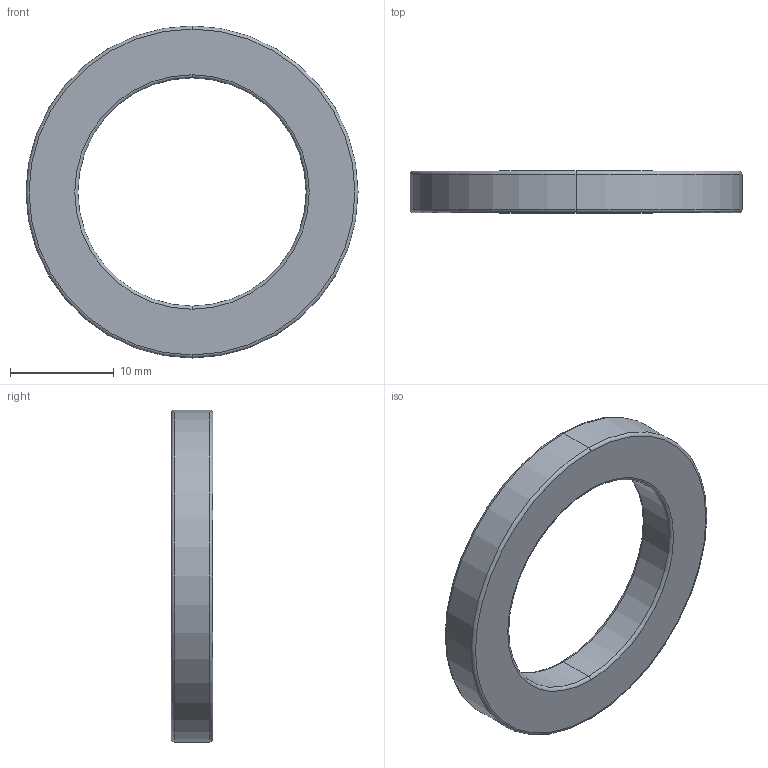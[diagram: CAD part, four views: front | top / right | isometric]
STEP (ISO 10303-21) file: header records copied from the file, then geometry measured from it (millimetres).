
FILE_DESCRIPTION (( 'STEP AP203' ), '1' );
FILE_NAME ('MAG022_Magnet_D32-d22-w4.STEP', '2017-08-10T07:55:23', ( '' ), ( '' ), 'SwSTEP 2.0', 'SolidWorks 2016', '' );
FILE_SCHEMA (( 'CONFIG_CONTROL_DESIGN' ));
Length unit declared in the file: millimetre
Products named in the file (1): MAG022_Magnet_D32-d22-w4
Bounding box: 32 x 4 x 32 mm (x, y, z)
Volume: 1689.9 mm3; surface area: 1483.1 mm2
Topology: 1 solids, 1 shells, 14 faces, 28 edges, 16 vertices
Faces by surface type: torus 8, cylinder 4, plane 2
Entity records: 453 total; most frequent: DIRECTION 82, CARTESIAN_POINT 59, ORIENTED_EDGE 56, AXIS2_PLACEMENT_3D 39, EDGE_CURVE 28, CIRCLE 24, EDGE_LOOP 16, VERTEX_POINT 16
